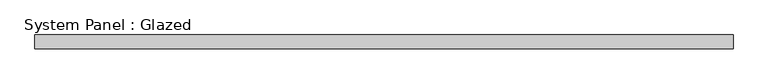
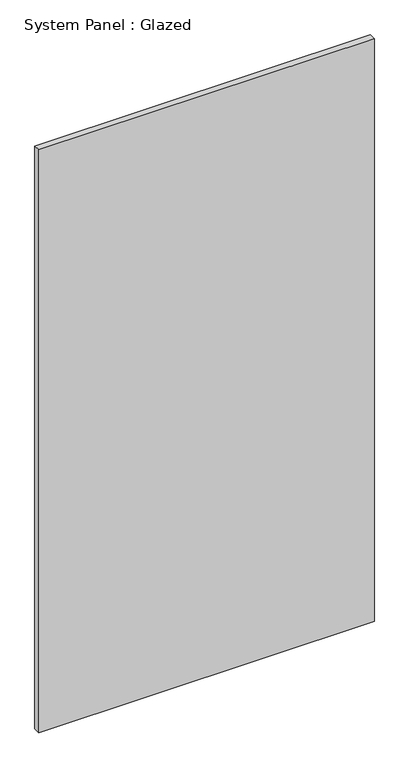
"""IFC4 building model written with IfcOpenShell, lengths in millimetres: plate geometry, System Panel : Glazed."""

from ifc_helpers import new_model, si_unit, origin, origin_with_axes, place, context, project, spatial, polyline, outline, extrude, source, transform, mapped, element, save


def system_panel_glazed_2c9ef115(model_context):
    return source(origin(), model_context, "Body", "SweptSolid", [
        extrude(outline(polyline([(638.175, 19.05), (-638.175, 19.05), (-638.175, 44.45), (638.175, 44.45), (638.175, 19.05)])), origin_with_axes(), (0.0, 0.0, 1.0), 2343.15),
    ])


if __name__ == "__main__":
    model = new_model("IFC4")
    model_context = context("Model", 3, world=origin())
    ifc_project = project(units=[si_unit("LENGTHUNIT", "METRE", prefix="MILLI")], contexts=[model_context])
    site = spatial("IfcSite", under=ifc_project)
    building = spatial("IfcBuilding", under=site)
    placement = place(None, origin())
    system_panel_glazed_shape = system_panel_glazed_2c9ef115(model_context)
    element("IfcPlate", 1, ObjectType="System Panel : Glazed", at=placement, inside=building, context=model_context, shape_type="MappedRepresentation", body=[
        mapped(system_panel_glazed_shape, transform((0.0, 0.0, 0.0), x_axis=(1.0, 0.0, 0.0), y_axis=(0.0, 1.0, 0.0), z_axis=(0.0, 0.0, 1.0))),
    ])
    save(model, "model.ifc")
